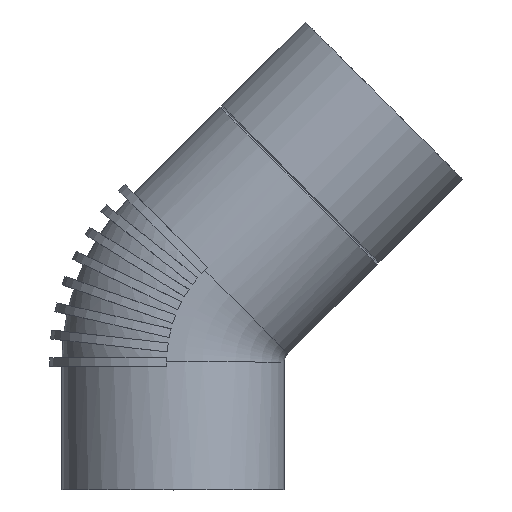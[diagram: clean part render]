
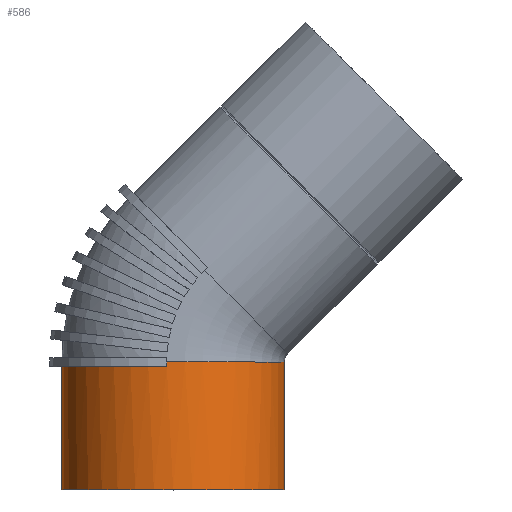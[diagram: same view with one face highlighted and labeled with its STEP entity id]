
A CAD part, top view. The second image highlights one B-rep face of the part: STEP entity #586.
In plain terms, the highlighted cylindrical face has radius 28 mm (diameter 56 mm), a full revolution.
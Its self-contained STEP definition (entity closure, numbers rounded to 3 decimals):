
#78=LINE($,#1479,#82);
#79=LINE($,#1482,#83);
#82=VECTOR($,#756,1.12);
#83=VECTOR($,#759,1.12);
#93=CYLINDRICAL_SURFACE($,#647,28.);
#107=FACE_BOUND($,#188,.T.);
#143=FACE_OUTER_BOUND($,#187,.T.);
#187=EDGE_LOOP($,(#503,#504,#505,#506));
#188=EDGE_LOOP($,(#507));
#220=CIRCLE($,#640,28.);
#223=CIRCLE($,#645,28.);
#224=CIRCLE($,#648,28.);
#277=VERTEX_POINT($,#1424);
#278=VERTEX_POINT($,#1431);
#281=VERTEX_POINT($,#1478);
#282=VERTEX_POINT($,#1481);
#283=VERTEX_POINT($,#1488);
#351=EDGE_CURVE($,#278,#277,#220,.T.);
#355=EDGE_CURVE($,#277,#281,#78,.T.);
#357=EDGE_CURVE($,#282,#278,#79,.T.);
#359=EDGE_CURVE($,#281,#282,#223,.T.);
#360=EDGE_CURVE($,#283,#283,#224,.T.);
#503=ORIENTED_EDGE($,*,*,#355,.T.);
#504=ORIENTED_EDGE($,*,*,#359,.T.);
#505=ORIENTED_EDGE($,*,*,#357,.T.);
#506=ORIENTED_EDGE($,*,*,#351,.T.);
#507=ORIENTED_EDGE($,*,*,#360,.F.);
#586=ADVANCED_FACE($,(#143,#107),#93,.T.);
#640=AXIS2_PLACEMENT_3D($,#1432,#752,#753);
#645=AXIS2_PLACEMENT_3D($,#1485,#764,#765);
#647=AXIS2_PLACEMENT_3D($,#1487,#768,#769);
#648=AXIS2_PLACEMENT_3D($,#1489,#770,#771);
#752=DIRECTION('center_axis',(0.,-1.,0.));
#753=DIRECTION('ref_axis',(1.,0.,0.));
#756=DIRECTION($,(0.,-1.,0.));
#759=DIRECTION($,(0.,1.,0.));
#764=DIRECTION('center_axis',(0.,-1.,0.));
#765=DIRECTION('ref_axis',(1.,0.,0.));
#768=DIRECTION('center_axis',(0.,-1.,0.));
#769=DIRECTION('ref_axis',(1.,0.,0.));
#770=DIRECTION('center_axis',(0.,-1.,0.));
#771=DIRECTION('ref_axis',(1.,0.,0.));
#1424=CARTESIAN_POINT('',(-1.6,32.159,27.954));
#1431=CARTESIAN_POINT('',(-1.6,32.159,-27.954));
#1432=CARTESIAN_POINT('Origin',(0.,32.159,0.));
#1478=CARTESIAN_POINT('',(-1.6,31.039,27.954));
#1479=CARTESIAN_POINT($,(-1.6,32.159,27.954));
#1481=CARTESIAN_POINT('',(-1.6,31.039,-27.954));
#1482=CARTESIAN_POINT($,(-1.6,32.159,-27.954));
#1485=CARTESIAN_POINT('Origin',(0.,31.039,0.));
#1487=CARTESIAN_POINT('Origin',(0.,16.08,0.));
#1488=CARTESIAN_POINT('',(28.,0.,0.));
#1489=CARTESIAN_POINT('Origin',(0.,0.,0.));
